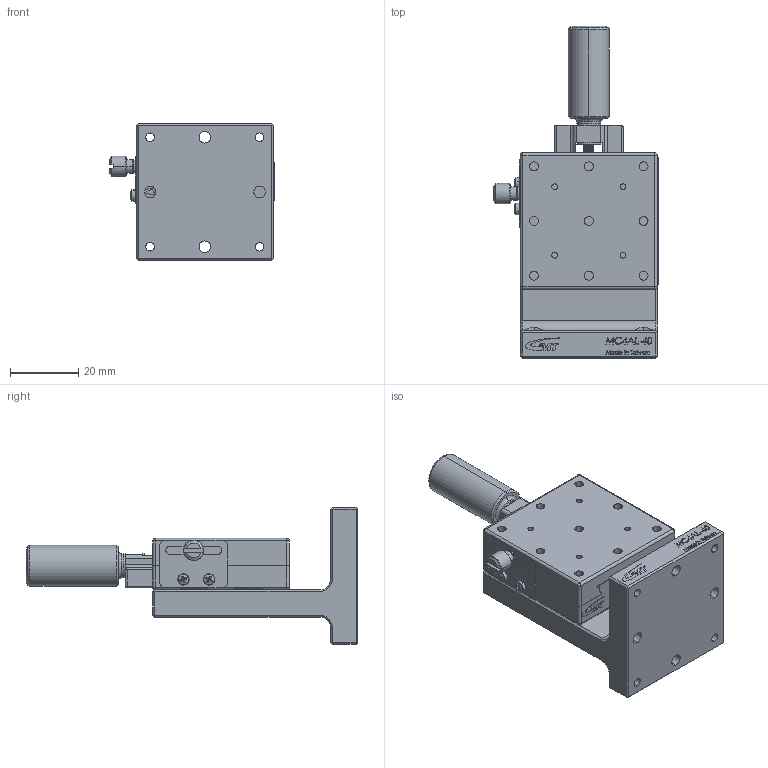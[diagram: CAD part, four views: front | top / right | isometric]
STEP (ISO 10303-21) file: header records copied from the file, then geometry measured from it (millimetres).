
FILE_DESCRIPTION (( 'STEP AP203' ), '1' );
FILE_NAME ('MC4AL-40(«¬¿ý).STEP', '2014-11-12T02:00:20', ( '123' ), ( '' ), 'SwSTEP 2.0', 'SolidWorks 2014', '' );
FILE_SCHEMA (( 'CONFIG_CONTROL_DESIGN' ));
Length unit declared in the file: millimetre
Products named in the file (3): Group1^MC4AL-40(型錄); Group2^MC4AL-40(型錄); MC4AL-40(型錄)
Assembly tree (2 placements, depth 2):
  MC4AL-40(型錄)
    Group1^MC4AL-40(型錄)
    Group2^MC4AL-40(型錄)
Bounding box: 48.1 x 97 x 40 mm (x, y, z)
Volume: 56235.4 mm3; surface area: 21695.7 mm2
Topology: 2 solids, 2 shells, 1038 faces, 2787 edges, 1809 vertices
Faces by surface type: plane 670, bspline 178, cylinder 115, cone 54, sphere 11, torus 10
Entity records: 42800 total; most frequent: CARTESIAN_POINT 17529, ORIENTED_EDGE 5552, DIRECTION 4466, EDGE_CURVE 2776, LINE 2002, VECTOR 2002, VERTEX_POINT 1809, AXIS2_PLACEMENT_3D 1232
